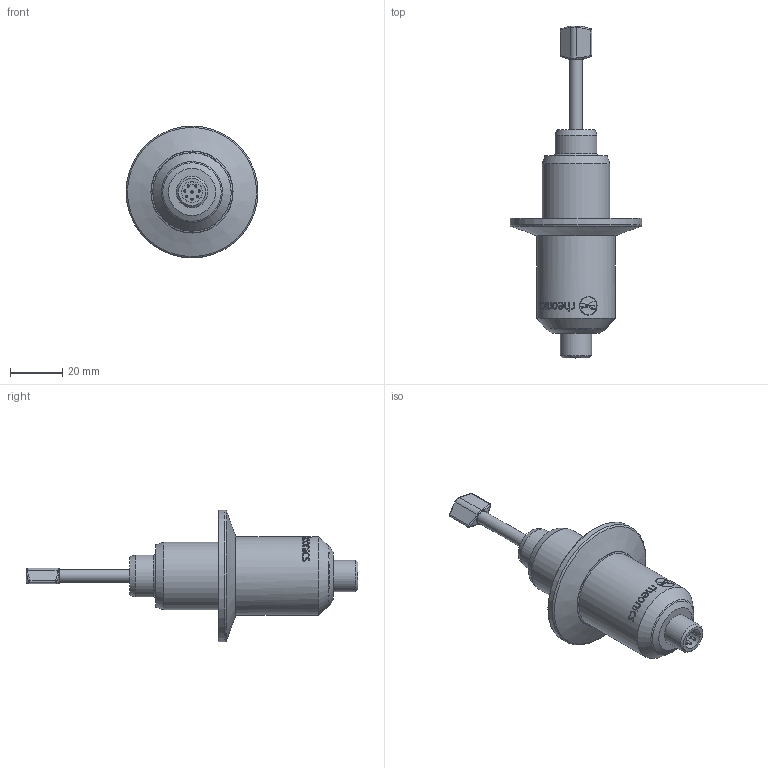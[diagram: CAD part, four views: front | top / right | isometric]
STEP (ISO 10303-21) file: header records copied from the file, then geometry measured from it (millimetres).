
FILE_DESCRIPTION(/* description */ ('Unknown'),/* implementation_level */ '2;1');
FILE_NAME(/* name */ 'SRD-X3-15T',/* time_stamp */ '2024-01-15T16:51:10-05:00',/* author */ ('Unknown'),/* organization */ ('Unknown'),/* preprocessor_version */ 'ST-DEVELOPER v16.7',/* originating_system */ 'Solid Edge',/* authorisation */ 'Unknown');
FILE_SCHEMA (('CONFIG_CONTROL_DESIGN'));
Length unit declared in the file: millimetre
Products named in the file (1): SRD-X3-15T
Bounding box: 50.5 x 127.15 x 50.5 mm (x, y, z)
Volume: 51668.3 mm3; surface area: 11844.1 mm2
Topology: 1 solids, 1 shells, 209 faces, 517 edges, 332 vertices
Faces by surface type: bspline 94, plane 42, cylinder 41, cone 14, torus 10, sphere 8
Full cylindrical faces by diameter (mm): 0.8 x8, 5 x1, 8 x1, 12 x1, 16 x1, 26 x1, 30 x1, 50.5 x1
Entity records: 10804 total; most frequent: CARTESIAN_POINT 5319, ORIENTED_EDGE 904, DIRECTION 570, EDGE_CURVE 452, VERTEX_POINT 308, EDGE_LOOP 272, FACE_BOUND 272, AXIS2_PLACEMENT_3D 217
